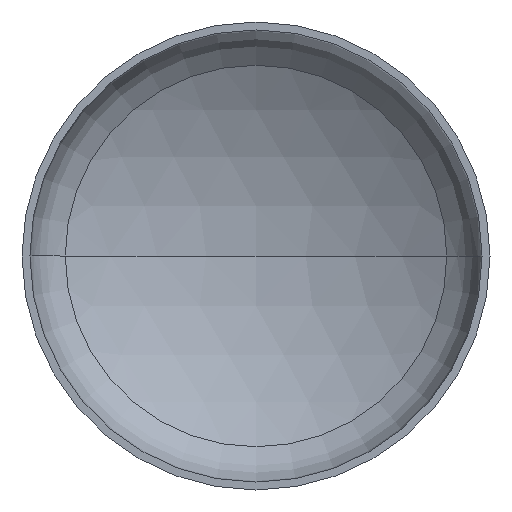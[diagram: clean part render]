
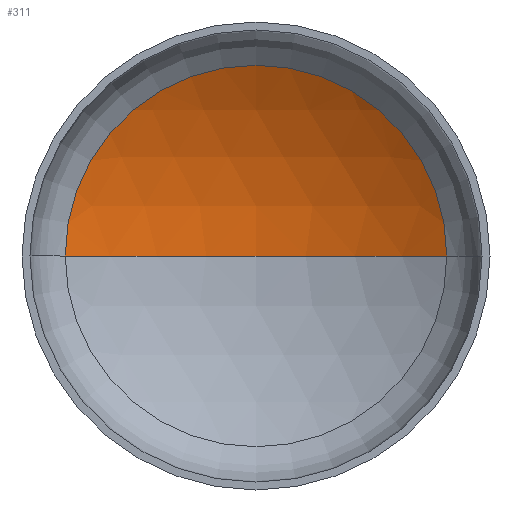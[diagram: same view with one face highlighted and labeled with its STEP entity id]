
A CAD part, front view. The second image highlights one B-rep face of the part: STEP entity #311.
In plain terms, the highlighted spherical face has radius 2080 mm.
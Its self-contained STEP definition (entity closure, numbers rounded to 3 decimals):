
#13 = AXIS2_PLACEMENT_3D ( 'NONE', #106, #101, #326 ) ;
#23 = EDGE_LOOP ( 'NONE', ( #217, #145, #113 ) ) ;
#24 = AXIS2_PLACEMENT_3D ( 'NONE', #135, #140, #178 ) ;
#37 = AXIS2_PLACEMENT_3D ( 'NONE', #255, #253, #169 ) ;
#40 = AXIS2_PLACEMENT_3D ( 'NONE', #218, #220, #275 ) ;
#65 = VERTEX_POINT ( 'NONE', #265 ) ;
#74 = CIRCLE ( 'NONE', #40, 1059.81 ) ;
#77 = VERTEX_POINT ( 'NONE', #241 ) ;
#101 = DIRECTION ( 'NONE',  ( 0., 0., 1. ) ) ;
#106 = CARTESIAN_POINT ( 'NONE',  ( 0., -1305.567, 0. ) ) ;
#113 = ORIENTED_EDGE ( 'NONE', *, *, #154, .T. ) ;
#115 = CARTESIAN_POINT ( 'NONE',  ( -1059.81, 484.183, 0. ) ) ;
#135 = CARTESIAN_POINT ( 'NONE',  ( 0., -1305.567, 0. ) ) ;
#140 = DIRECTION ( 'NONE',  ( 0., 0., -1. ) ) ;
#145 = ORIENTED_EDGE ( 'NONE', *, *, #163, .T. ) ;
#154 = EDGE_CURVE ( 'NONE', #77, #360, #74, .T. ) ;
#163 = EDGE_CURVE ( 'NONE', #65, #77, #379, .T. ) ;
#169 = DIRECTION ( 'NONE',  ( -1., 0., 0. ) ) ;
#178 = DIRECTION ( 'NONE',  ( -1., 0., 0. ) ) ;
#217 = ORIENTED_EDGE ( 'NONE', *, *, #365, .F. ) ;
#218 = CARTESIAN_POINT ( 'NONE',  ( 0., 484.183, 0. ) ) ;
#220 = DIRECTION ( 'NONE',  ( 0., -1., 0. ) ) ;
#241 = CARTESIAN_POINT ( 'NONE',  ( 1059.81, 484.183, 0. ) ) ;
#250 = SPHERICAL_SURFACE ( 'NONE', #24, 2080. ) ;
#253 = DIRECTION ( 'NONE',  ( 0., 0., -1. ) ) ;
#255 = CARTESIAN_POINT ( 'NONE',  ( 0., -1305.567, 0. ) ) ;
#265 = CARTESIAN_POINT ( 'NONE',  ( 0., 774.433, 0. ) ) ;
#275 = DIRECTION ( 'NONE',  ( 1., 0., 0. ) ) ;
#311 = ADVANCED_FACE ( 'NONE', ( #313 ), #250, .F. ) ;
#313 = FACE_OUTER_BOUND ( 'NONE', #23, .T. ) ;
#326 = DIRECTION ( 'NONE',  ( 1., 0., 0. ) ) ;
#347 = CIRCLE ( 'NONE', #13, 2080. ) ;
#360 = VERTEX_POINT ( 'NONE', #115 ) ;
#365 = EDGE_CURVE ( 'NONE', #65, #360, #347, .T. ) ;
#379 = CIRCLE ( 'NONE', #37, 2080. ) ;
